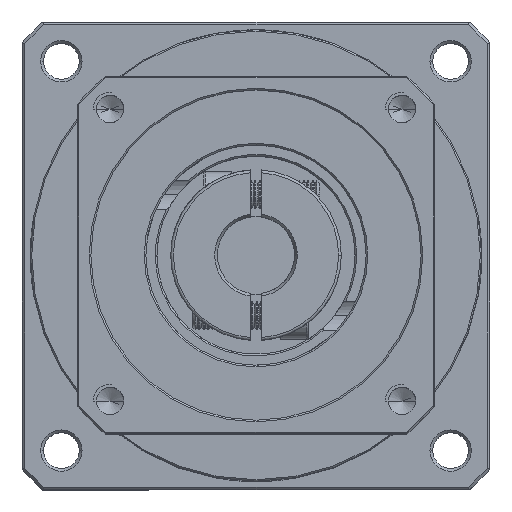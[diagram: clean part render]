
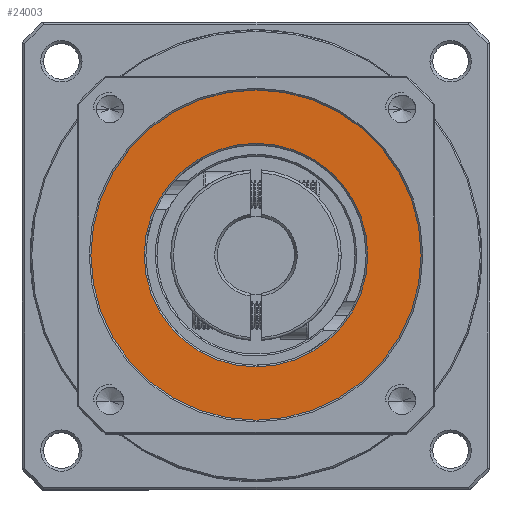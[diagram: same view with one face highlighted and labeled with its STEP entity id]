
A CAD part, top view. The second image highlights one B-rep face of the part: STEP entity #24003.
In plain terms, the highlighted planar face has unit normal (0, 0, 1).
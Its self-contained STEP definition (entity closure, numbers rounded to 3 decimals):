
#9206 = VERTEX_POINT ( 'NONE', #60405 ) ;
#11559 = CIRCLE ( 'NONE', #87154, 20.3 ) ;
#17153 = CARTESIAN_POINT ( 'NONE',  ( -80.485, 43.615, -29.508 ) ) ;
#17185 = VERTEX_POINT ( 'NONE', #47260 ) ;
#18036 = DIRECTION ( 'NONE',  ( 0., 0., -1. ) ) ;
#21424 = ORIENTED_EDGE ( 'NONE', *, *, #119506, .T. ) ;
#24003 = ADVANCED_FACE ( 'NONE', ( #113320, #100478 ), #62048, .T. ) ;
#28186 = AXIS2_PLACEMENT_3D ( 'NONE', #106534, #94457, #105199 ) ;
#37609 = CARTESIAN_POINT ( 'NONE',  ( -50.485, 43.615, -29.508 ) ) ;
#42505 = VERTEX_POINT ( 'NONE', #17153 ) ;
#43178 = CARTESIAN_POINT ( 'NONE',  ( -70.785, 43.615, -29.508 ) ) ;
#46212 = EDGE_CURVE ( 'NONE', #17185, #130990, #125936, .T. ) ;
#47260 = CARTESIAN_POINT ( 'NONE',  ( -30.185, 43.615, -29.508 ) ) ;
#49588 = EDGE_LOOP ( 'NONE', ( #119455, #21424 ) ) ;
#53633 = EDGE_CURVE ( 'NONE', #130990, #17185, #11559, .T. ) ;
#54239 = CARTESIAN_POINT ( 'NONE',  ( -50.485, 43.615, -29.508 ) ) ;
#54676 = DIRECTION ( 'NONE',  ( 0., 0., 1. ) ) ;
#60405 = CARTESIAN_POINT ( 'NONE',  ( -20.485, 43.615, -29.508 ) ) ;
#62048 = PLANE ( 'NONE',  #131187 ) ;
#66152 = DIRECTION ( 'NONE',  ( 1., 0., 0. ) ) ;
#71274 = EDGE_CURVE ( 'NONE', #9206, #42505, #117858, .T. ) ;
#75274 = AXIS2_PLACEMENT_3D ( 'NONE', #54239, #54676, #126119 ) ;
#79867 = CIRCLE ( 'NONE', #28186, 30. ) ;
#81761 = CARTESIAN_POINT ( 'NONE',  ( -50.485, 43.615, -29.508 ) ) ;
#87154 = AXIS2_PLACEMENT_3D ( 'NONE', #119309, #87168, #66152 ) ;
#87168 = DIRECTION ( 'NONE',  ( 0., 0., -1. ) ) ;
#87977 = EDGE_LOOP ( 'NONE', ( #119240, #117566 ) ) ;
#92434 = DIRECTION ( 'NONE',  ( 0., 0., 1. ) ) ;
#94457 = DIRECTION ( 'NONE',  ( 0., 0., 1. ) ) ;
#100478 = FACE_OUTER_BOUND ( 'NONE', #49588, .T. ) ;
#100756 = AXIS2_PLACEMENT_3D ( 'NONE', #37609, #18036, #109961 ) ;
#105199 = DIRECTION ( 'NONE',  ( 1., 0., 0. ) ) ;
#106534 = CARTESIAN_POINT ( 'NONE',  ( -50.485, 43.615, -29.508 ) ) ;
#109961 = DIRECTION ( 'NONE',  ( 1., 0., 0. ) ) ;
#112571 = DIRECTION ( 'NONE',  ( 1., 0., 0. ) ) ;
#113320 = FACE_BOUND ( 'NONE', #87977, .T. ) ;
#117566 = ORIENTED_EDGE ( 'NONE', *, *, #53633, .T. ) ;
#117858 = CIRCLE ( 'NONE', #75274, 30. ) ;
#119240 = ORIENTED_EDGE ( 'NONE', *, *, #46212, .T. ) ;
#119309 = CARTESIAN_POINT ( 'NONE',  ( -50.485, 43.615, -29.508 ) ) ;
#119455 = ORIENTED_EDGE ( 'NONE', *, *, #71274, .T. ) ;
#119506 = EDGE_CURVE ( 'NONE', #42505, #9206, #79867, .T. ) ;
#125936 = CIRCLE ( 'NONE', #100756, 20.3 ) ;
#126119 = DIRECTION ( 'NONE',  ( 1., 0., 0. ) ) ;
#130990 = VERTEX_POINT ( 'NONE', #43178 ) ;
#131187 = AXIS2_PLACEMENT_3D ( 'NONE', #81761, #92434, #112571 ) ;
